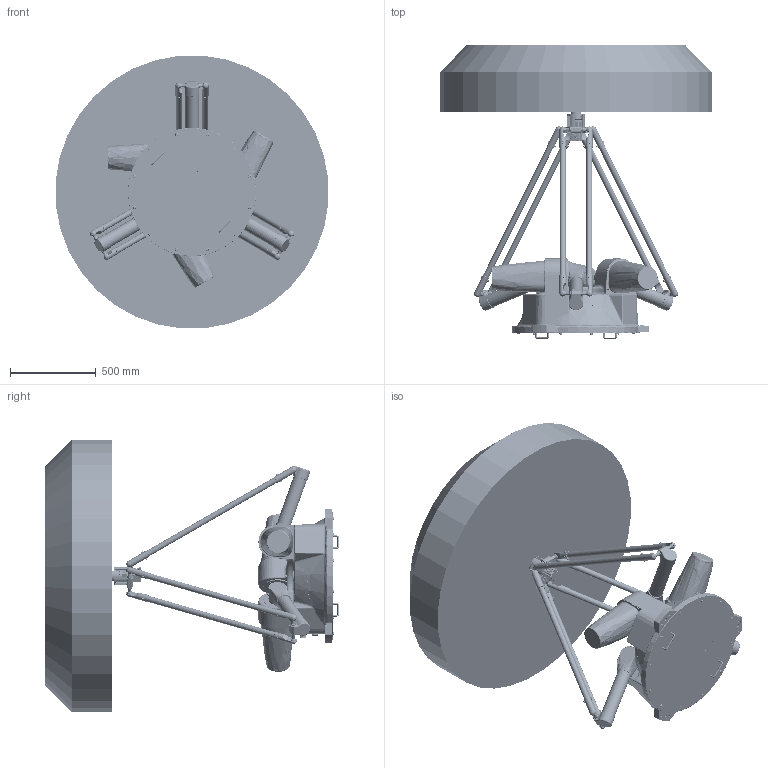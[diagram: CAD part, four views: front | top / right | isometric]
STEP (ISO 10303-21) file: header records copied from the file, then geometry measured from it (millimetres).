
FILE_DESCRIPTION (( 'STEP AP214' ), '1' );
FILE_NAME ('AP15X-1600-1544-T0-V3.0.0.STEP', '2025-01-14T09:34:11', ( '' ), ( '' ), 'SwSTEP 2.0', 'SolidWorks 2017', '' );
FILE_SCHEMA (( 'AUTOMOTIVE_DESIGN' ));
Length unit declared in the file: millimetre
Products named in the file (18): AP15X-1600-1544-T0-V3.0.0; AP15X-1600-1544-T10-V1.0.0; AP15X-1600-1544-T3-V1.0.0; AP15X-1600-1544-T2-V1.0.0; AP15X-2200-1544-T1-V1.0.1; AP15X-1600-1544-T9-V3.0.0
Assembly tree (12 placements, depth 2):
  AP15X-1600-1544-T0-V3.0.0
    AP15X-2200-1544-T1-V1.0.1
    AP15X-1600-1544-T2-V1.0.0  x3
    AP15X-1600-1544-T3-V1.0.0  x6
    AP15X-1600-1544-T10-V1.0.0
    AP15X-1600-1544-T9-V3.0.0
  AP15X-1600-1544-T3-V1.0.0
  AP15X-1600-1544-T3-V1.0.0
  AP15X-1600-1544-T9-V3.0.0
  AP15X-1600-1544-T3-V1.0.0
Bounding box: 1595.29 x 1719 x 1595.29 mm (x, y, z)
Volume: 725166307.1 mm3; surface area: 11254891.2 mm2
Topology: 45 solids, 364 shells, 6960 faces, 18927 edges, 12215 vertices
Faces by surface type: bspline 2248, plane 2233, cylinder 1621, cone 621, torus 188, sphere 49
Full cylindrical faces by diameter (mm): 2 x4, 2.1 x1, 2.5 x1, 3.3 x36, 3.5 x8, 4 x15, 4.2 x36, 4.4 x14, 4.5 x34, 4.8 x1, 5 x86, 5.3 x1, 5.5 x24, 6 x8, 6.6 x14, 6.647 x36, 6.8 x12, 7 x24, 7.3 x2, 7.5 x6, 8 x68, 8.5 x2, 9 x44, 9.3 x2, 9.51 x2, 10 x19, 11 x8, 11.7 x7, 12 x24, 12.1 x1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
Entity records: 401776 total; most frequent: CARTESIAN_POINT 202500, ORIENTED_EDGE 29159, DIRECTION 20965, EDGE_CURVE 15183, VERTEX_POINT 10402, EDGE_LOOP 7654, AXIS2_PLACEMENT_3D 7633, FACE_OUTER_BOUND 6735
